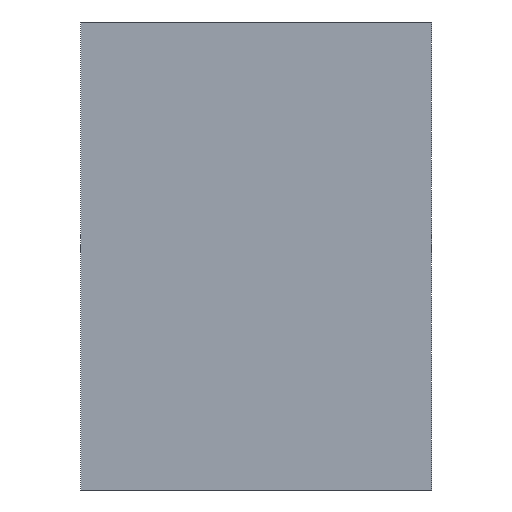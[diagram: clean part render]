
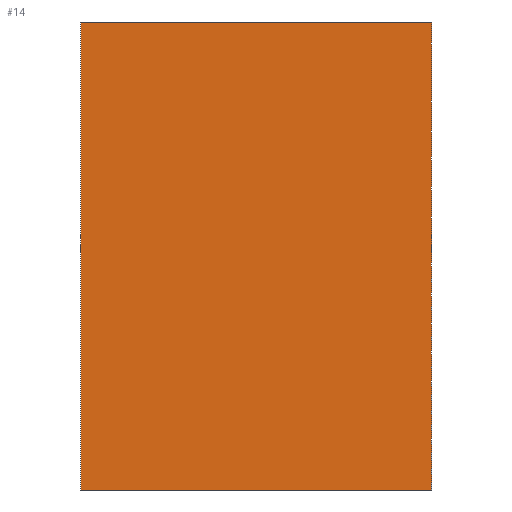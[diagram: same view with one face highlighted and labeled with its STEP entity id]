
A CAD part, front view. The second image highlights one B-rep face of the part: STEP entity #14.
In plain terms, the highlighted planar face has unit normal (0, -1, 0).
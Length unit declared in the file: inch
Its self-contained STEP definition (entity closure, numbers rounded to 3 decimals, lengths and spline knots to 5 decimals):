
#14=ADVANCED_FACE('',(#20),#88,.T.);
#20=FACE_OUTER_BOUND('',#26,.T.);
#26=EDGE_LOOP('',(#32,#33,#34,#35));
#32=ORIENTED_EDGE('',*,*,#56,.T.);
#33=ORIENTED_EDGE('',*,*,#65,.T.);
#34=ORIENTED_EDGE('',*,*,#60,.F.);
#35=ORIENTED_EDGE('',*,*,#64,.F.);
#56=EDGE_CURVE('',#80,#81,#68,.T.);
#60=EDGE_CURVE('',#84,#85,#72,.T.);
#64=EDGE_CURVE('',#80,#84,#76,.T.);
#65=EDGE_CURVE('',#81,#85,#77,.T.);
#68=B_SPLINE_CURVE_WITH_KNOTS('',1,(#217,#218),.UNSPECIFIED.,.F.,.F.,(2,
2),(0.,6.),.UNSPECIFIED.);
#72=B_SPLINE_CURVE_WITH_KNOTS('',1,(#225,#226),.UNSPECIFIED.,.F.,.F.,(2,
2),(0.,6.),.UNSPECIFIED.);
#76=B_SPLINE_CURVE_WITH_KNOTS('',1,(#233,#234),.UNSPECIFIED.,.F.,.F.,(2,
2),(0.,8.),.UNSPECIFIED.);
#77=B_SPLINE_CURVE_WITH_KNOTS('',1,(#235,#236),.UNSPECIFIED.,.F.,.F.,(2,
2),(0.,8.),.UNSPECIFIED.);
#80=VERTEX_POINT('',#209);
#81=VERTEX_POINT('',#210);
#84=VERTEX_POINT('',#213);
#85=VERTEX_POINT('',#214);
#88=PLANE('',#185);
#185=AXIS2_PLACEMENT_3D('',#203,#194,$);
#194=DIRECTION('',(0.,-1.,0.));
#203=CARTESIAN_POINT('',(0.,0.,0.));
#209=CARTESIAN_POINT('',(0.,0.,0.));
#210=CARTESIAN_POINT('',(6.,0.,0.));
#213=CARTESIAN_POINT('',(0.,0.,8.));
#214=CARTESIAN_POINT('',(6.,0.,8.));
#217=CARTESIAN_POINT('',(0.,0.,0.));
#218=CARTESIAN_POINT('',(6.,0.,0.));
#225=CARTESIAN_POINT('',(0.,0.,8.));
#226=CARTESIAN_POINT('',(6.,0.,8.));
#233=CARTESIAN_POINT('',(0.,0.,0.));
#234=CARTESIAN_POINT('',(0.,0.,8.));
#235=CARTESIAN_POINT('',(6.,0.,0.));
#236=CARTESIAN_POINT('',(6.,0.,8.));
